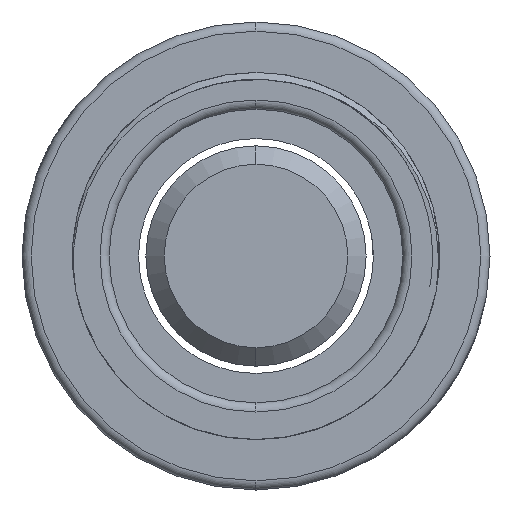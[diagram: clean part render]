
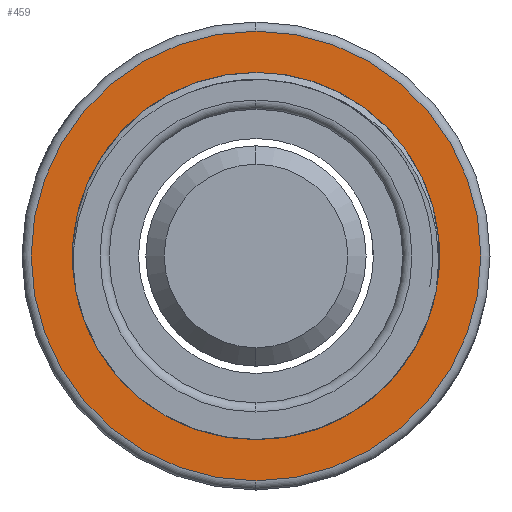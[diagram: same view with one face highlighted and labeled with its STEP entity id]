
A CAD part, left-side view. The second image highlights one B-rep face of the part: STEP entity #459.
In plain terms, the highlighted planar face has unit normal (-1, 0, 0).
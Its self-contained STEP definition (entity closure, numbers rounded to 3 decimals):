
#38 = EDGE_CURVE ( 'NONE', #2341, #1376, #720, .T. ) ;
#88 = DIRECTION ( 'NONE',  ( -1., 0., 0. ) ) ;
#118 = CARTESIAN_POINT ( 'NONE',  ( 7., 0., 9.25 ) ) ;
#459 = ADVANCED_FACE ( 'NONE', ( #2019, #627 ), #1358, .T. ) ;
#473 = DIRECTION ( 'NONE',  ( 0., 0., 1. ) ) ;
#475 = AXIS2_PLACEMENT_3D ( 'NONE', #913, #3134, #1688 ) ;
#627 = FACE_BOUND ( 'NONE', #2397, .T. ) ;
#652 = DIRECTION ( 'NONE',  ( 0., 0., 1. ) ) ;
#663 = AXIS2_PLACEMENT_3D ( 'NONE', #2100, #1608, #473 ) ;
#711 = AXIS2_PLACEMENT_3D ( 'NONE', #3455, #88, #652 ) ;
#720 = CIRCLE ( 'NONE', #779, 9.25 ) ;
#729 = EDGE_CURVE ( 'NONE', #740, #3024, #3358, .T. ) ;
#740 = VERTEX_POINT ( 'NONE', #1461 ) ;
#779 = AXIS2_PLACEMENT_3D ( 'NONE', #953, #1831, #3189 ) ;
#913 = CARTESIAN_POINT ( 'NONE',  ( 7., 0., 0. ) ) ;
#921 = CARTESIAN_POINT ( 'NONE',  ( 7., 0., 12.25 ) ) ;
#953 = CARTESIAN_POINT ( 'NONE',  ( 7., 0., 0. ) ) ;
#1073 = EDGE_CURVE ( 'NONE', #1376, #2341, #2538, .T. ) ;
#1246 = EDGE_LOOP ( 'NONE', ( #2338, #1420 ) ) ;
#1358 = PLANE ( 'NONE',  #2349 ) ;
#1376 = VERTEX_POINT ( 'NONE', #118 ) ;
#1420 = ORIENTED_EDGE ( 'NONE', *, *, #729, .T. ) ;
#1461 = CARTESIAN_POINT ( 'NONE',  ( 7., 0., -12.25 ) ) ;
#1608 = DIRECTION ( 'NONE',  ( -1., 0., 0. ) ) ;
#1688 = DIRECTION ( 'NONE',  ( 0., 0., 1. ) ) ;
#1831 = DIRECTION ( 'NONE',  ( -1., 0., 0. ) ) ;
#1986 = ORIENTED_EDGE ( 'NONE', *, *, #38, .F. ) ;
#2019 = FACE_OUTER_BOUND ( 'NONE', #1246, .T. ) ;
#2100 = CARTESIAN_POINT ( 'NONE',  ( 7., 0., 0. ) ) ;
#2219 = DIRECTION ( 'NONE',  ( -1., 0., 0. ) ) ;
#2338 = ORIENTED_EDGE ( 'NONE', *, *, #2832, .T. ) ;
#2341 = VERTEX_POINT ( 'NONE', #2829 ) ;
#2349 = AXIS2_PLACEMENT_3D ( 'NONE', #3555, #2219, #3323 ) ;
#2397 = EDGE_LOOP ( 'NONE', ( #1986, #3209 ) ) ;
#2411 = CIRCLE ( 'NONE', #475, 12.25 ) ;
#2538 = CIRCLE ( 'NONE', #663, 9.25 ) ;
#2829 = CARTESIAN_POINT ( 'NONE',  ( 7., 0., -9.25 ) ) ;
#2832 = EDGE_CURVE ( 'NONE', #3024, #740, #2411, .T. ) ;
#3024 = VERTEX_POINT ( 'NONE', #921 ) ;
#3134 = DIRECTION ( 'NONE',  ( -1., 0., 0. ) ) ;
#3189 = DIRECTION ( 'NONE',  ( 0., 0., 1. ) ) ;
#3209 = ORIENTED_EDGE ( 'NONE', *, *, #1073, .F. ) ;
#3323 = DIRECTION ( 'NONE',  ( 0., 0., 1. ) ) ;
#3358 = CIRCLE ( 'NONE', #711, 12.25 ) ;
#3455 = CARTESIAN_POINT ( 'NONE',  ( 7., 0., 0. ) ) ;
#3555 = CARTESIAN_POINT ( 'NONE',  ( 7., 0., 0. ) ) ;
